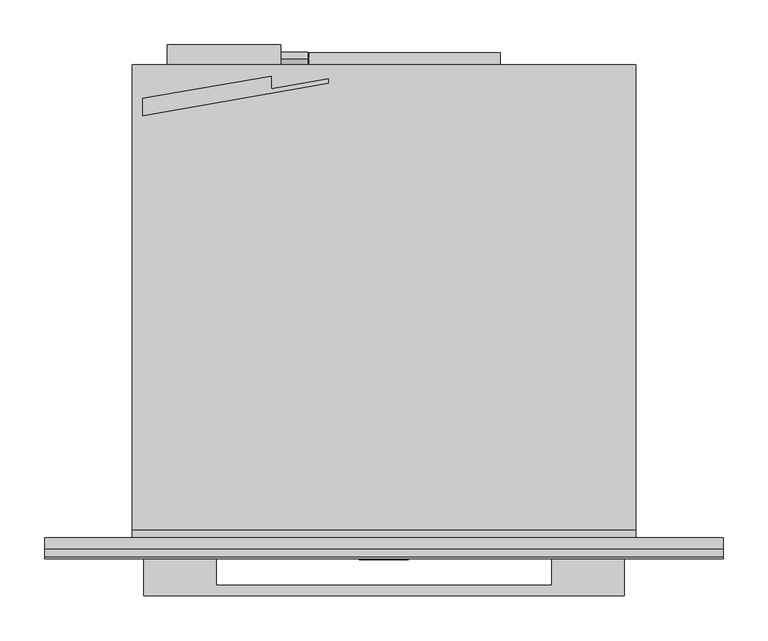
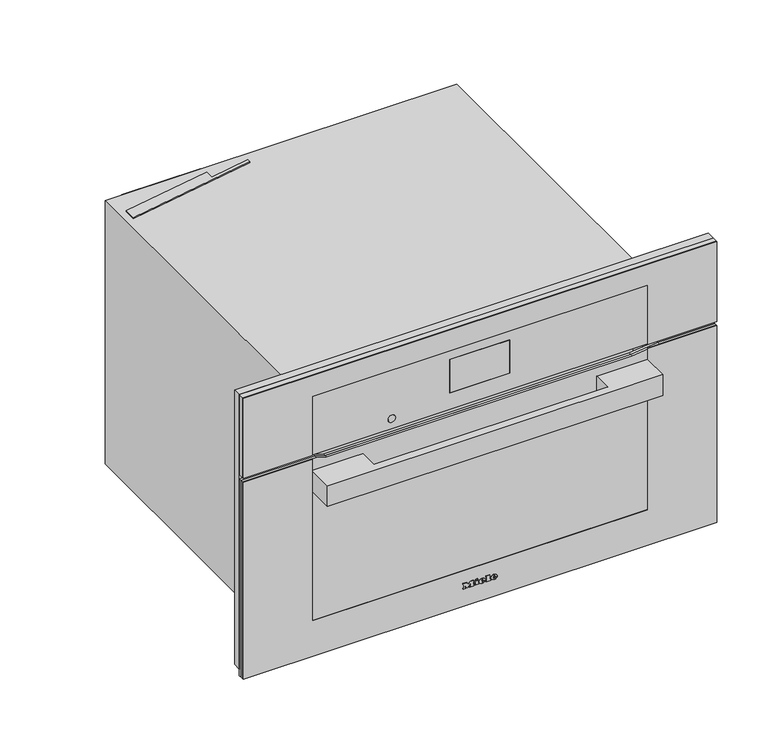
"""IFC4 building model written with IfcOpenShell, lengths in millimetres: proxy geometry, 11804590_USA_H7570BM_EDST-CLST : 22757046_USA_11804590_H7570BM_EDST-CLST."""

from ifc_helpers import new_model, si_unit, point, frame, frame_2d, origin, place, context, project, spatial, polyline, circle_curve, ellipse_curve, trimmed, segment, composite_curve, outline, extrude, faceted_brep, source, transform, mapped, element, save
from ifc_brep_helpers import plane_surface, cylinder_surface, revolved_surface, extruded_surface, advanced_brep


def specialty_equipment_445a4902(model_context):
    return source(origin(), model_context, "Body", "SolidModel", [
        advanced_brep(
        [(21.28, -24.3, 36.133), (21.28, -24.3, 37.042), (27.301, -24.3, 37.042), (16.825, -24.3, 37.042), (19.3, -24.3, 34.0), (27.148, -24.3, 36.133), (24.43, -24.3, 36.133), (22.288, -24.3, 35.125), (21.28, -24.3, 38.194), (21.28, -24.3, 39.175), (22.819, -24.3, 39.175), (22.819, -24.3, 38.194), (21.28, -23.3, 36.133), (22.288, -23.3, 35.125), (24.43, -23.3, 36.133), (27.148, -23.3, 36.133), (19.3, -23.3, 34.0), (16.825, -23.3, 37.042), (27.301, -23.3, 37.042), (21.28, -23.3, 37.042), (21.28, -23.3, 38.194), (22.819, -23.3, 38.194), (22.819, -23.3, 39.175), (21.28, -23.3, 39.175)],
        [
            (0, 1),
            (1, 2),
            (2, 3, ellipse_curve(frame((22.063, -24.3, 37.042), z_axis=(0.0, -1.0, 0.0), x_axis=(-1.0, 0.0, 0.0)), 5.238, 4.329)),
            (3, 4, circle_curve(frame((20.3080491, -24.3, 37.348), z_axis=(0.0, -1.0, 0.0), x_axis=(0.0, 0.0, -1.0)), 3.4964649)),
            (4, 5, circle_curve(frame((21.9581428, -24.3, 39.724), z_axis=(0.0, -1.0, 0.0), x_axis=(0.0, 0.0, -1.0)), 6.3110933)),
            (5, 6),
            (6, 7, circle_curve(frame((22.7279412, -24.3, 36.97), z_axis=(0.0, 1.0, 0.0), x_axis=(0.0, 0.0, -1.0)), 1.896727)),
            (7, 0, circle_curve(frame((22.288, -24.3, 36.133), z_axis=(0.0, 1.0, 0.0), x_axis=(0.0, 0.0, -1.0)), 1.008)),
            (8, 9),
            (9, 10, circle_curve(frame((22.0495, -24.3, 39.175), z_axis=(0.0, 1.0, 0.0), x_axis=(0.0, 0.0, -1.0)), 0.7695)),
            (10, 11),
            (11, 8),
            (12, 13, circle_curve(frame((22.288, -23.3, 36.133), z_axis=(0.0, -1.0, 0.0), x_axis=(0.0, 0.0, -1.0)), 1.008)),
            (13, 14, circle_curve(frame((22.7279412, -23.3, 36.97), z_axis=(0.0, -1.0, 0.0), x_axis=(0.0, 0.0, -1.0)), 1.896727)),
            (14, 15),
            (15, 16, circle_curve(frame((21.9581428, -23.3, 39.724), z_axis=(0.0, 1.0, 0.0), x_axis=(0.0, 0.0, -1.0)), 6.3110933)),
            (16, 17, circle_curve(frame((20.3080491, -23.3, 37.348), z_axis=(0.0, 1.0, 0.0), x_axis=(0.0, 0.0, -1.0)), 3.4964649)),
            (17, 18, ellipse_curve(frame((22.063, -23.3, 37.042), z_axis=(0.0, 1.0, 0.0), x_axis=(-1.0, 0.0, 0.0)), 5.238, 4.329)),
            (18, 19),
            (19, 12),
            (20, 21),
            (21, 22),
            (22, 23, circle_curve(frame((22.0495, -23.3, 39.175), z_axis=(0.0, -1.0, 0.0), x_axis=(0.0, 0.0, -1.0)), 0.7695)),
            (23, 20),
            (0, 12),
            (19, 1),
            (18, 2),
            (5, 15),
            (14, 6),
            (17, 3),
            (13, 7),
            (16, 4),
            (8, 20),
            (23, 9),
            (22, 10),
            (21, 11),
        ],
        [
            plane_surface(frame((21.28, -24.3, 37.042), z_axis=(0.0, -1.0, 0.0), x_axis=(0.0, 0.0, 1.0))),
            plane_surface(frame((21.28, -23.3, 37.042), z_axis=(0.0, 1.0, 0.0), x_axis=(0.0, 0.0, -1.0))),
            plane_surface(frame((21.28, -24.3, 36.133), z_axis=(1.0, 0.0, 0.0), x_axis=(0.0, 1.0, 0.0))),
            plane_surface(frame((21.28, -24.3, 37.042), z_axis=(0.0, 0.0, -1.0), x_axis=(0.0, 1.0, 0.0))),
            plane_surface(frame((27.148, -24.3, 36.133), z_axis=(0.0, 0.0, 1.0), x_axis=(0.0, 1.0, 0.0))),
            extruded_surface(trimmed(ellipse_curve(frame((22.063, -22.3, 37.042), z_axis=(0.0, -1.0, 0.0), x_axis=(-1.0, 0.0, 0.0)), 5.238, 4.329), [point((27.301, -22.3, 37.042))], [point((16.825, -22.3, 37.042))], True, "CARTESIAN"), (0.0, -1.0, 0.0), 1.0),
            revolved_surface(polyline([(22.7279412, -23.3, 35.073273), (22.7279412, -24.3, 35.073273)]), (22.7279412, -23.3, 36.97), (0.0, 1.0, 0.0)),
            revolved_surface(polyline([(22.288, -23.3, 35.125), (22.288, -24.3, 35.125)]), (22.288, -23.3, 36.133), (0.0, 1.0, 0.0)),
            cylinder_surface(frame((20.3080491, -23.3, 37.348), z_axis=(0.0, -1.0, 0.0), x_axis=(0.0, 0.0, -1.0)), 3.4964649),
            cylinder_surface(frame((21.9581428, -23.3, 39.724), z_axis=(0.0, -1.0, 0.0), x_axis=(0.0, 0.0, -1.0)), 6.3110933),
            plane_surface(frame((21.28, -24.3, 38.194), z_axis=(1.0, 0.0, 0.0), x_axis=(0.0, 1.0, 0.0))),
            revolved_surface(polyline([(22.0495, -23.3, 38.405499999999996), (22.0495, -24.3, 38.405499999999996)]), (22.0495, -23.3, 39.175), (0.0, 1.0, 0.0)),
            plane_surface(frame((22.819, -24.3, 39.175), z_axis=(-1.0, 0.0, 0.0), x_axis=(0.0, 1.0, 0.0))),
            plane_surface(frame((22.819, -24.3, 38.194), z_axis=(0.0, 0.0, 1.0), x_axis=(0.0, 1.0, 0.0))),
        ],
        [
            (0, [[1, 2, 3, 4, 5, 6, 7, 8], [9, 10, 11, 12]]),
            (1, [[13, 14, 15, 16, 17, 18, 19, 20], [21, 22, 23, 24]]),
            (2, [[-1, 25, -20, 26]]),
            (3, [[-2, -26, -19, 27]]),
            (4, [[-6, 28, -15, 29]]),
            (5, [[-3, -27, -18, 30]]),
            (6, [[-7, -29, -14, 31]]),
            (7, [[-8, -31, -13, -25]]),
            (8, [[-4, -30, -17, 32]]),
            (9, [[-5, -32, -16, -28]]),
            (10, [[-9, 33, -24, 34]]),
            (11, [[-10, -34, -23, 35]]),
            (12, [[-11, -35, -22, 36]]),
            (13, [[-12, -36, -21, -33]]),
        ],
    ),
        advanced_brep(
        [(2.497, -24.3, 36.133), (2.497, -24.3, 37.042), (8.518, -24.3, 37.042), (-1.958, -24.3, 37.042), (0.517, -24.3, 34.0), (8.365, -24.3, 36.133), (5.647, -24.3, 36.133), (3.505, -24.3, 35.125), (2.497, -24.3, 38.194), (2.497, -24.3, 39.175), (4.036, -24.3, 39.175), (4.036, -24.3, 38.194), (2.497, -23.3, 36.133), (3.505, -23.3, 35.125), (5.647, -23.3, 36.133), (8.365, -23.3, 36.133), (0.517, -23.3, 34.0), (-1.958, -23.3, 37.042), (8.518, -23.3, 37.042), (2.497, -23.3, 37.042), (2.497, -23.3, 38.194), (4.036, -23.3, 38.194), (4.036, -23.3, 39.175), (2.497, -23.3, 39.175)],
        [
            (0, 1),
            (1, 2),
            (2, 3, ellipse_curve(frame((3.28, -24.3, 37.042), z_axis=(0.0, -1.0, 0.0), x_axis=(-1.0, 0.0, 0.0)), 5.238, 4.329)),
            (3, 4, circle_curve(frame((1.5250491, -24.3, 37.348), z_axis=(0.0, -1.0, 0.0), x_axis=(0.0, 0.0, -1.0)), 3.4964649)),
            (4, 5, circle_curve(frame((3.1751428, -24.3, 39.724), z_axis=(0.0, -1.0, 0.0), x_axis=(0.0, 0.0, -1.0)), 6.3110933)),
            (5, 6),
            (6, 7, circle_curve(frame((3.9449412, -24.3, 36.97), z_axis=(0.0, 1.0, 0.0), x_axis=(0.0, 0.0, -1.0)), 1.896727)),
            (7, 0, circle_curve(frame((3.505, -24.3, 36.133), z_axis=(0.0, 1.0, 0.0), x_axis=(0.0, 0.0, -1.0)), 1.008)),
            (8, 9),
            (9, 10, circle_curve(frame((3.2665, -24.3, 39.175), z_axis=(0.0, 1.0, 0.0), x_axis=(0.0, 0.0, -1.0)), 0.7695)),
            (10, 11),
            (11, 8),
            (12, 13, circle_curve(frame((3.505, -23.3, 36.133), z_axis=(0.0, -1.0, 0.0), x_axis=(0.0, 0.0, -1.0)), 1.008)),
            (13, 14, circle_curve(frame((3.9449412, -23.3, 36.97), z_axis=(0.0, -1.0, 0.0), x_axis=(0.0, 0.0, -1.0)), 1.896727)),
            (14, 15),
            (15, 16, circle_curve(frame((3.1751428, -23.3, 39.724), z_axis=(0.0, 1.0, 0.0), x_axis=(0.0, 0.0, -1.0)), 6.3110933)),
            (16, 17, circle_curve(frame((1.5250491, -23.3, 37.348), z_axis=(0.0, 1.0, 0.0), x_axis=(0.0, 0.0, -1.0)), 3.4964649)),
            (17, 18, ellipse_curve(frame((3.28, -23.3, 37.042), z_axis=(0.0, 1.0, 0.0), x_axis=(-1.0, 0.0, 0.0)), 5.238, 4.329)),
            (18, 19),
            (19, 12),
            (20, 21),
            (21, 22),
            (22, 23, circle_curve(frame((3.2665, -23.3, 39.175), z_axis=(0.0, -1.0, 0.0), x_axis=(0.0, 0.0, -1.0)), 0.7695)),
            (23, 20),
            (0, 12),
            (19, 1),
            (18, 2),
            (5, 15),
            (14, 6),
            (17, 3),
            (13, 7),
            (16, 4),
            (8, 20),
            (23, 9),
            (22, 10),
            (21, 11),
        ],
        [
            plane_surface(frame((2.497, -24.3, 37.042), z_axis=(0.0, -1.0, 0.0), x_axis=(0.0, 0.0, 1.0))),
            plane_surface(frame((2.497, -23.3, 37.042), z_axis=(0.0, 1.0, 0.0), x_axis=(0.0, 0.0, -1.0))),
            plane_surface(frame((2.497, -24.3, 36.133), z_axis=(1.0, 0.0, 0.0), x_axis=(0.0, 1.0, 0.0))),
            plane_surface(frame((2.497, -24.3, 37.042), z_axis=(0.0, 0.0, -1.0), x_axis=(0.0, 1.0, 0.0))),
            plane_surface(frame((8.365, -24.3, 36.133), z_axis=(0.0, 0.0, 1.0), x_axis=(0.0, 1.0, 0.0))),
            extruded_surface(trimmed(ellipse_curve(frame((3.28, -22.3, 37.042), z_axis=(0.0, -1.0, 0.0), x_axis=(-1.0, 0.0, 0.0)), 5.238, 4.329), [point((8.518, -22.3, 37.042))], [point((-1.958, -22.3, 37.042))], True, "CARTESIAN"), (0.0, -1.0, 0.0), 1.0),
            revolved_surface(polyline([(3.9449412, -23.3, 35.073273), (3.9449412, -24.3, 35.073273)]), (3.9449412, -23.3, 36.97), (0.0, 1.0, 0.0)),
            revolved_surface(polyline([(3.505, -23.3, 35.125), (3.505, -24.3, 35.125)]), (3.505, -23.3, 36.133), (0.0, 1.0, 0.0)),
            cylinder_surface(frame((1.5250491, -23.3, 37.348), z_axis=(0.0, -1.0, 0.0), x_axis=(0.0, 0.0, -1.0)), 3.4964649),
            cylinder_surface(frame((3.1751428, -23.3, 39.724), z_axis=(0.0, -1.0, 0.0), x_axis=(0.0, 0.0, -1.0)), 6.3110933),
            plane_surface(frame((2.497, -24.3, 38.194), z_axis=(1.0, 0.0, 0.0), x_axis=(0.0, 1.0, 0.0))),
            revolved_surface(polyline([(3.2665, -23.3, 38.405499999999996), (3.2665, -24.3, 38.405499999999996)]), (3.2665, -23.3, 39.175), (0.0, 1.0, 0.0)),
            plane_surface(frame((4.036, -24.3, 39.175), z_axis=(-1.0, 0.0, 0.0), x_axis=(0.0, 1.0, 0.0))),
            plane_surface(frame((4.036, -24.3, 38.194), z_axis=(0.0, 0.0, 1.0), x_axis=(0.0, 1.0, 0.0))),
        ],
        [
            (0, [[1, 2, 3, 4, 5, 6, 7, 8], [9, 10, 11, 12]]),
            (1, [[13, 14, 15, 16, 17, 18, 19, 20], [21, 22, 23, 24]]),
            (2, [[-1, 25, -20, 26]]),
            (3, [[-2, -26, -19, 27]]),
            (4, [[-6, 28, -15, 29]]),
            (5, [[-3, -27, -18, 30]]),
            (6, [[-7, -29, -14, 31]]),
            (7, [[-8, -31, -13, -25]]),
            (8, [[-4, -30, -17, 32]]),
            (9, [[-5, -32, -16, -28]]),
            (10, [[-9, 33, -24, 34]]),
            (11, [[-10, -34, -23, 35]]),
            (12, [[-11, -35, -22, 36]]),
            (13, [[-12, -36, -21, -33]]),
        ],
    ),
        extrude(outline(polyline([(42.469, -7.34), (41.011, -6.656), (42.433, -3.605), (43.891, -4.28), (42.469, -7.34)])), frame((0.0, -24.3, 0.0), z_axis=(0.0, 1.0, 0.0), x_axis=(0.0, 0.0, 1.0)), (0.0, 0.0, 1.0), 1.0),
        extrude(outline(polyline([(40.813, -9.563), (39.202, -9.563), (39.202, -8.492), (35.512, -8.492), (35.512, -9.563), (34.0, -9.563), (34.0, -2.462), (35.512, -2.462), (35.512, -3.506), (40.813, -3.506), (40.813, -9.563)])), frame((0.0, -24.3, 0.0), z_axis=(0.0, 1.0, 0.0), x_axis=(0.0, 0.0, 1.0)), (0.0, 0.0, 1.0), 1.0),
        extrude(outline(polyline([(41.533, 9.022), (41.533, 10.102), (35.512, 10.102), (35.512, 9.022), (34.0, 9.022), (34.0, 16.321), (35.512, 16.321), (35.512, 15.214), (43.0, 15.214), (43.0, 9.022), (41.533, 9.022)])), frame((0.0, -24.3, 0.0), z_axis=(0.0, 1.0, 0.0), x_axis=(0.0, 0.0, 1.0)), (0.0, 0.0, 1.0), 1.0),
        extrude(outline(polyline([(41.533, -27.5), (41.533, -26.411), (35.512, -26.411), (35.512, -27.5), (34.0, -27.5), (34.0, -23.54), (35.512, -23.54), (35.512, -24.62), (39.3341247, -24.62), (34.0, -20.597), (39.4402223, -16.556), (35.512, -16.556), (35.512, -17.663), (34.0, -17.663), (34.0, -10.481), (35.512, -10.481), (35.512, -11.624), (41.533, -11.624), (41.533, -10.481), (43.0, -10.481), (43.0, -15.962), (39.625, -18.59), (43.0, -21.227), (43.0, -27.5), (41.533, -27.5)])), frame((0.0, -24.3, 0.0), z_axis=(0.0, 1.0, 0.0), x_axis=(0.0, 0.0, 1.0)), (0.0, 0.0, 1.0), 1.0),
        extrude(outline(polyline([(337.0, -268.5), (337.0, -378.5), (4.0, -378.5), (4.0, 378.5), (337.0, 378.5), (337.0, 268.5), (64.0, 268.5), (64.0, -268.5), (337.0, -268.5)])), frame((0.0, -23.3, 0.0), z_axis=(0.0, 1.0, 0.0), x_axis=(0.0, 0.0, 1.0)), (0.0, 0.0, 1.0), 1.3),
        extrude(outline(polyline([(337.0, -378.5), (4.0, -378.5), (4.0, 378.5), (337.0, 378.5), (337.0, 287.3542631), (332.0, 244.0), (332.0, -244.0), (337.0, -260.3542631), (337.0, -378.5)])), frame((0.0, -22.0, 0.0), z_axis=(0.0, 1.0, 0.0), x_axis=(0.0, 0.0, 1.0)), (0.0, 0.0, 1.0), 4.0),
        extrude(outline(polyline([(-187.0, -22.0), (-187.0, -53.0), (187.0, -53.0), (187.0, -22.0), (268.0, -22.0), (268.0, -65.0), (-268.0, -65.0), (-268.0, -22.0), (-187.0, -22.0)])), frame((0.0, 0.0, 283.0), z_axis=(0.0, 0.0, 1.0), x_axis=(1.0, 0.0, 0.0)), (0.0, 0.0, 1.0), 35.0),
        extrude(outline(polyline([(337.0, -378.5), (4.0, -378.5), (4.0, 378.5), (337.0, 378.5), (337.0, 287.3542631), (332.0, 244.0), (332.0, -244.0), (337.0, -260.3542631), (337.0, -378.5)])), frame((0.0, -18.0, 0.0), z_axis=(0.0, 1.0, 0.0), x_axis=(0.0, 0.0, 1.0)), (0.0, 0.0, 1.0), 5.0),
        extrude(outline(polyline([(-199.5, -18.0), (199.5, -18.0), (199.5, -22.0), (-199.5, -22.0), (-199.5, -18.0)])), frame((0.0, 0.0, 82.0), z_axis=(0.0, 0.0, 1.0), x_axis=(1.0, 0.0, 0.0)), (0.0, 0.0, 1.0), 170.0),
        extrude(outline(polyline([(479.0, -378.5), (344.0, -378.5), (344.0, -268.5), (444.0, -268.5), (444.0, 268.5), (344.0, 268.5), (344.0, 378.5), (479.0, 378.5), (479.0, -378.5)])), frame((0.0, -23.3, 0.0), z_axis=(0.0, 1.0, 0.0), x_axis=(0.0, 0.0, 1.0)), (0.0, 0.0, 1.0), 1.3),
        extrude(outline(polyline([(-48.0, -21.0), (48.0, -21.0), (48.0, -22.0), (-48.0, -22.0), (-48.0, -21.0)])), frame((0.0, 0.0, 372.0), z_axis=(0.0, 0.0, 1.0), x_axis=(1.0, 0.0, 0.0)), (0.0, 0.0, 1.0), 56.0),
        faceted_brep([(378.5, -22.0, 479.0), (-378.5, -22.0, 479.0), (-378.5, -22.0, 344.0), (378.5, -22.0, 344.0), (48.0, -22.0, 428.0), (48.0, -22.0, 372.0), (-48.0, -22.0, 372.0), (-48.0, -22.0, 428.0), (378.5, -13.0, 479.0), (378.5, -13.0, 344.0), (-378.5, -13.0, 344.0), (-378.5, -13.0, 479.0), (48.0, -21.0, 428.0), (-48.0, -21.0, 428.0), (-48.0, -21.0, 372.0), (48.0, -21.0, 372.0)], [[[0, 1, 2, 3], [4, 5, 6, 7]], [[8, 9, 10, 11]], [[1, 0, 8, 11]], [[2, 1, 11, 10]], [[3, 2, 10, 9]], [[0, 3, 9, 8]], [[12, 13, 14, 15]], [[12, 15, 5, 4]], [[15, 14, 6, 5]], [[14, 13, 7, 6]], [[13, 12, 4, 7]]]),
        extrude(outline(composite_curve([segment(trimmed(circle_curve(frame_2d((361.0, -140.5745637)), 6.0), [point((361.0, -146.5745637))], [point((361.0, -134.5745637))], False, "CARTESIAN"), True, "CONTINUOUS"), segment(trimmed(circle_curve(frame_2d((361.0, -140.5745637)), 6.0), [point((361.0, -134.5745637))], [point((361.0, -146.5745637))], False, "CARTESIAN"), True, "CONTINUOUS")], self_intersect=False)), frame((0.0, -22.5, 0.0), z_axis=(0.0, 1.0, 0.0), x_axis=(0.0, 0.0, 1.0)), (0.0, 0.0, 1.0), 1.0),
        extrude(outline(polyline([(-269.0, 490.2851942), (-126.0, 515.1547594), (-126.0, 500.9446163), (-62.0, 512.0750511), (-62.0, 507.0), (-269.0, 471.0), (-269.0, 490.2851942)])), frame((0.0, 0.0, 445.0), z_axis=(0.0, 0.0, 1.0), x_axis=(1.0, 0.0, 0.0)), (0.0, 0.0, 1.0), 2.0),
        extrude(outline(polyline([(528.134837, 358.3256163), (533.9911721, 358.3256163), (533.9911721, 357.3256163), (529.134837, 357.3256163), (529.134837, 353.8256163), (532.0849866, 353.8256163), (532.0849866, 352.8256163), (529.134837, 352.8256163), (529.134837, 349.3256163), (533.9911721, 349.3256163), (533.9911721, 348.3256163), (528.134837, 348.3256163), (528.134837, 358.3256163)])), frame((-85.0, 0.0, 0.0), z_axis=(1.0, 0.0, 0.0), x_axis=(0.0, 1.0, 0.0)), (0.0, 0.0, 1.0), 1.0),
        extrude(outline(polyline([(535.4911721, 348.3256163), (535.4911721, 358.3256163), (536.5959622, 358.3256163), (536.5959622, 349.3256163), (540.4911721, 349.3256163), (540.4911721, 348.3256163), (535.4911721, 348.3256163)])), frame((-85.0, 0.0, 0.0), z_axis=(1.0, 0.0, 0.0), x_axis=(0.0, 1.0, 0.0)), (0.0, 0.0, 1.0), 1.0),
        extrude(outline(composite_curve([segment(trimmed(circle_curve(frame_2d((534.0, 353.0)), 7.5), [point((534.0, 345.5))], [point((534.0, 360.5))], False, "CARTESIAN"), True, "CONTINUOUS"), segment(trimmed(circle_curve(frame_2d((534.0, 353.0)), 7.5), [point((534.0, 360.5))], [point((534.0, 345.5))], False, "CARTESIAN"), True, "CONTINUOUS")], self_intersect=False)), frame((-115.0, 0.0, 0.0), z_axis=(1.0, 0.0, 0.0), x_axis=(0.0, 1.0, 0.0)), (0.0, 0.0, 1.0), 30.0),
        extrude(outline(polyline([(-115.0, 528.0), (-242.0, 528.0), (-242.0, 550.0), (-115.0, 550.0), (-115.0, 528.0)])), frame((0.0, 0.0, 325.0), z_axis=(0.0, 0.0, 1.0), x_axis=(1.0, 0.0, 0.0)), (0.0, 0.0, 1.0), 103.0),
        faceted_brep([(272.5, 25.0, 344.0), (-272.5, 25.0, 344.0), (-272.5, 25.0, 15.0), (272.5, 25.0, 15.0), (-235.0, 25.0, 270.0), (235.0, 25.0, 270.0), (235.0, 25.0, 60.0), (-235.0, 25.0, 60.0), (272.5, 0.0, 344.0), (-272.5, 0.0, 344.0), (-272.5, 0.0, 15.0), (272.5, 0.0, 15.0), (281.0, 0.0, 0.0), (281.0, 528.0, 0.0), (281.0, 528.0, 445.0), (281.0, 9.0, 445.0), (281.0, 9.0, 440.0), (281.0, 0.0, 440.0), (-281.0, 9.0, 445.0), (-281.0, 528.0, 445.0), (-281.0, 528.0, 0.0), (-281.0, 0.0, 0.0), (-281.0, 0.0, 440.0), (-281.0, 9.0, 440.0), (235.0, 433.0, 270.0), (-235.0, 433.0, 270.0), (-235.0, 433.0, 60.0), (235.0, 433.0, 60.0)], [[[0, 1, 2, 3], [4, 5, 6, 7]], [[1, 0, 8, 9]], [[2, 1, 9, 10]], [[0, 3, 11, 8]], [[12, 13, 14, 15, 16, 17]], [[18, 19, 20, 21, 22, 23]], [[13, 12, 21, 20]], [[14, 13, 20, 19]], [[15, 14, 19, 18]], [[21, 12, 17, 22], [9, 8, 11, 10]], [[24, 25, 26, 27]], [[25, 24, 5, 4]], [[26, 25, 4, 7]], [[27, 26, 7, 6]], [[24, 27, 6, 5]], [[3, 2, 10, 11]], [[16, 23, 22, 17]], [[23, 16, 15, 18]]]),
        extrude(outline(polyline([(130.0, 528.0), (-130.0, 528.0), (-130.0, 541.0), (130.0, 541.0), (130.0, 528.0)])), frame((0.0, 0.0, 36.0), z_axis=(0.0, 0.0, 1.0), x_axis=(1.0, 0.0, 0.0)), (0.0, 0.0, 1.0), 260.0),
        extrude(outline(polyline([(15.0, 378.5), (479.0, 378.5), (479.0, -378.5), (15.0, -378.5), (15.0, -272.5), (344.0, -272.5), (344.0, 272.5), (15.0, 272.5), (15.0, 378.5)])), frame((0.0, -13.0, 0.0), z_axis=(0.0, 1.0, 0.0), x_axis=(0.0, 0.0, 1.0)), (0.0, 0.0, 1.0), 13.0),
    ])


if __name__ == "__main__":
    model = new_model("IFC4")
    model_context = context("Model", 3, world=origin())
    ifc_project = project(units=[si_unit("LENGTHUNIT", "METRE", prefix="MILLI")], contexts=[model_context])
    site = spatial("IfcSite", under=ifc_project)
    building = spatial("IfcBuilding", under=site)
    placement = place(None, origin())
    specialty_equipment_shape = specialty_equipment_445a4902(model_context)
    element("IfcBuildingElementProxy", 1, Name="11804590_USA_H7570BM_EDST-CLST : 22757046_USA_11804590_H7570BM_EDST-CLST", ObjectType="11804590_USA_H7570BM_EDST-CLST : 22757046_USA_11804590_H7570BM_EDST-CLST", at=placement, inside=building, context=model_context, shape_type="MappedRepresentation", body=[
        mapped(specialty_equipment_shape, transform((0.0, 0.0, 0.0), x_axis=(1.0, 0.0, 0.0), y_axis=(0.0, 1.0, 0.0), z_axis=(0.0, 0.0, 1.0))),
    ])
    save(model, "model.ifc")
